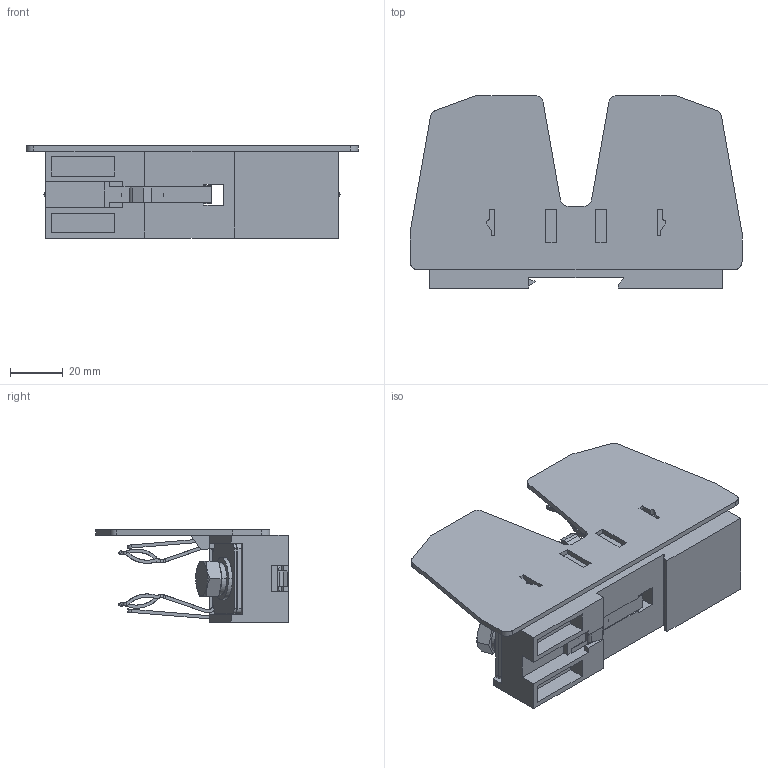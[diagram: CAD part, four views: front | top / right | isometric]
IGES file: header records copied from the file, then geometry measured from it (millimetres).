
Start section: SolidWorks IGES file using analytic representation for surfaces
Global section: file name: U:\14_RD\05_Technical_office\04_Office\Hrdinova\3D modely - IGES\Varius - Ostatní\SPV22.IGS; native system: SolidWorks 2011; preprocessor: SolidWorks 2011; author: adhrja3; date: 170621.071009; units: millimetre
Bounding box: 126 x 73 x 35 mm (x, y, z)
Surface area: 66803.1 mm2 (no closed solid volume)
Topology: 0 solids, 0 shells, 751 faces, 7543 edges, 7543 vertices
Faces by surface type: bspline 450, revolution 301
